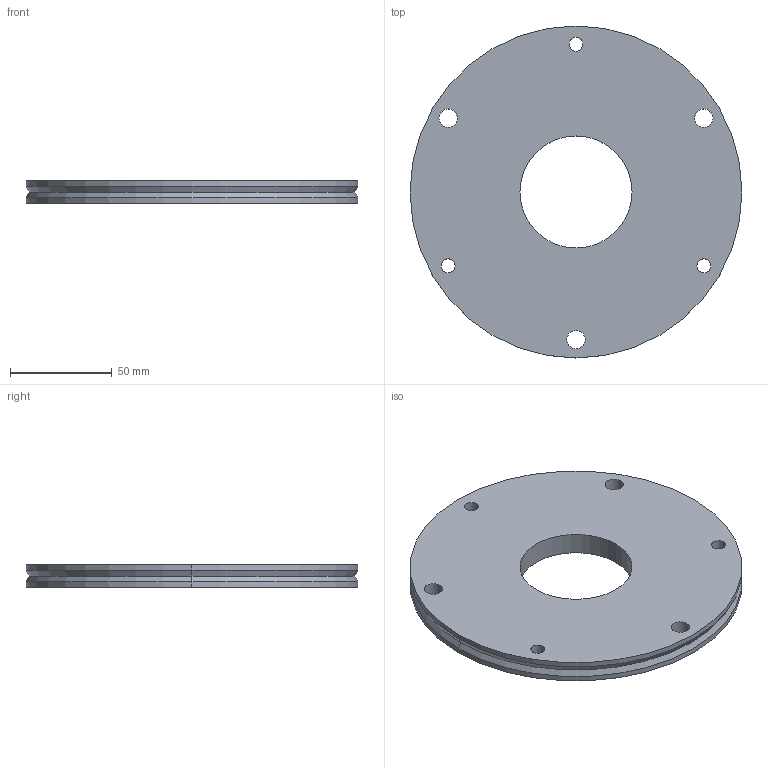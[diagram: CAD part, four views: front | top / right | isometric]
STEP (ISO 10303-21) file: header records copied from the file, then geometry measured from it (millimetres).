
FILE_DESCRIPTION (( 'STEP AP214' ), '1' );
FILE_NAME ('0638 Flansch.STEP', '2025-03-26T12:00:02', ( '' ), ( '' ), 'SwSTEP 2.0', 'SolidWorks 2022', '' );
FILE_SCHEMA (( 'AUTOMOTIVE_DESIGN' ));
Length unit declared in the file: millimetre
Products named in the file (1): 0638 Flansch
Bounding box: 163 x 163 x 11 mm (x, y, z)
Volume: 197908 mm3; surface area: 45900.1 mm2
Topology: 1 solids, 1 shells, 24 faces, 60 edges, 38 vertices
Faces by surface type: cylinder 18, cone 4, plane 2
Entity records: 862 total; most frequent: DIRECTION 148, CARTESIAN_POINT 123, ORIENTED_EDGE 120, AXIS2_PLACEMENT_3D 63, EDGE_CURVE 60, CIRCLE 38, EDGE_LOOP 38, VERTEX_POINT 38
